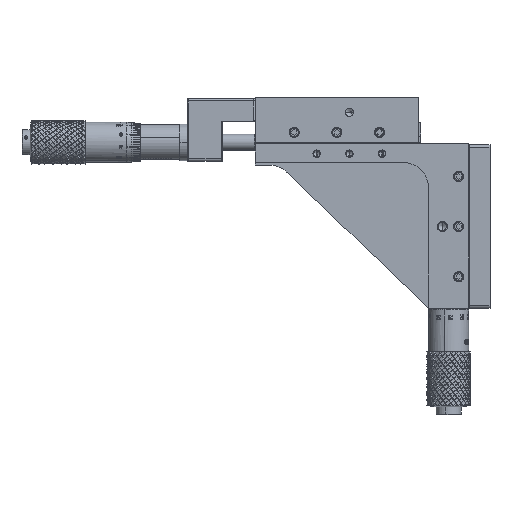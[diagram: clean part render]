
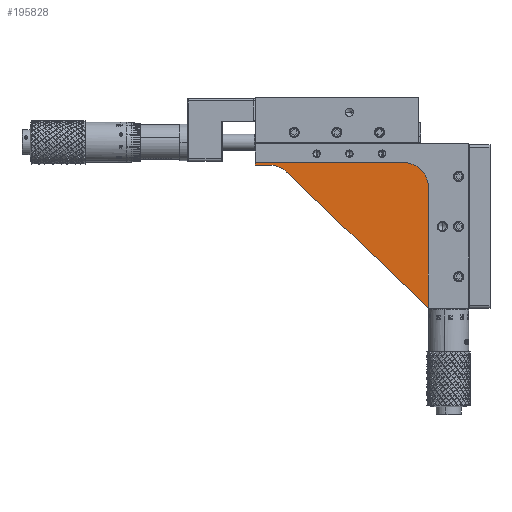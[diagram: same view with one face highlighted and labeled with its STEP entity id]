
A CAD part, left-side view. The second image highlights one B-rep face of the part: STEP entity #195828.
In plain terms, the highlighted planar face has unit normal (-1, 0, 0) as drawn and (0, 0, -1) by its records, which use the part's own axes.
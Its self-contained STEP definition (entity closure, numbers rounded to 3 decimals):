
#1626 = CARTESIAN_POINT ( 'NONE',  ( 26., 26., -9.5 ) ) ;
#2113 = VECTOR ( 'NONE', #47264, 1000. ) ;
#4133 = VERTEX_POINT ( 'NONE', #133170 ) ;
#4943 = DIRECTION ( 'NONE',  ( -1., 0., 0. ) ) ;
#7646 = ORIENTED_EDGE ( 'NONE', *, *, #130283, .F. ) ;
#8286 = CARTESIAN_POINT ( 'NONE',  ( 16., 85., -9.5 ) ) ;
#17735 = VERTEX_POINT ( 'NONE', #8286 ) ;
#25556 = CIRCLE ( 'NONE', #163276, 10. ) ;
#29750 = CARTESIAN_POINT ( 'NONE',  ( 16., 85., -9.5 ) ) ;
#33497 = LINE ( 'NONE', #108657, #63861 ) ;
#36321 = AXIS2_PLACEMENT_3D ( 'NONE', #1626, #76852, #151941 ) ;
#42931 = ORIENTED_EDGE ( 'NONE', *, *, #48311, .F. ) ;
#47264 = DIRECTION ( 'NONE',  ( 0., -1., 0. ) ) ;
#47851 = EDGE_CURVE ( 'NONE', #164682, #4133, #93376, .T. ) ;
#48311 = EDGE_CURVE ( 'NONE', #17735, #85294, #232930, .T. ) ;
#58499 = DIRECTION ( 'NONE',  ( 1., 0., 0. ) ) ;
#63861 = VECTOR ( 'NONE', #183828, 1000. ) ;
#64180 = CARTESIAN_POINT ( 'NONE',  ( 16., 85., -9.5 ) ) ;
#71887 = ORIENTED_EDGE ( 'NONE', *, *, #194553, .T. ) ;
#76852 = DIRECTION ( 'NONE',  ( 0., 0., -1. ) ) ;
#82373 = CARTESIAN_POINT ( 'NONE',  ( 26., 26., -9.5 ) ) ;
#85294 = VERTEX_POINT ( 'NONE', #214984 ) ;
#90311 = VERTEX_POINT ( 'NONE', #105644 ) ;
#90484 = VERTEX_POINT ( 'NONE', #147440 ) ;
#93376 = CIRCLE ( 'NONE', #231095, 10. ) ;
#93972 = CARTESIAN_POINT ( 'NONE',  ( 17., 79.422, -9.5 ) ) ;
#94399 = ORIENTED_EDGE ( 'NONE', *, *, #142867, .F. ) ;
#95300 = FACE_OUTER_BOUND ( 'NONE', #101784, .T. ) ;
#98595 = CARTESIAN_POINT ( 'NONE',  ( 27., 79.422, -9.5 ) ) ;
#100533 = EDGE_CURVE ( 'NONE', #90484, #164682, #140879, .T. ) ;
#101784 = EDGE_LOOP ( 'NONE', ( #71887, #94399, #7646, #42931, #236880, #169753, #234462 ) ) ;
#104919 = DIRECTION ( 'NONE',  ( -1., 0., 0. ) ) ;
#105644 = CARTESIAN_POINT ( 'NONE',  ( 26., 16., -9.5 ) ) ;
#108657 = CARTESIAN_POINT ( 'NONE',  ( 19.785, 72.498, -9.5 ) ) ;
#125380 = CARTESIAN_POINT ( 'NONE',  ( 74., 16., -9.5 ) ) ;
#130283 = EDGE_CURVE ( 'NONE', #85294, #90311, #25556, .T. ) ;
#133170 = CARTESIAN_POINT ( 'NONE',  ( 19.785, 72.498, -9.5 ) ) ;
#139254 = DIRECTION ( 'NONE',  ( 0., -1., 0. ) ) ;
#140879 = LINE ( 'NONE', #216048, #2113 ) ;
#142867 = EDGE_CURVE ( 'NONE', #90311, #191646, #152105, .T. ) ;
#147440 = CARTESIAN_POINT ( 'NONE',  ( 17., 85., -9.5 ) ) ;
#150935 = VECTOR ( 'NONE', #104919, 1000. ) ;
#151941 = DIRECTION ( 'NONE',  ( 1., 0., 0. ) ) ;
#152105 = LINE ( 'NONE', #227288, #243361 ) ;
#157465 = DIRECTION ( 'NONE',  ( 0., 0., 1. ) ) ;
#160838 = EDGE_CURVE ( 'NONE', #90484, #17735, #198553, .T. ) ;
#163276 = AXIS2_PLACEMENT_3D ( 'NONE', #82373, #157465, #232661 ) ;
#164682 = VERTEX_POINT ( 'NONE', #93972 ) ;
#169753 = ORIENTED_EDGE ( 'NONE', *, *, #100533, .T. ) ;
#170433 = PLANE ( 'NONE',  #36321 ) ;
#173755 = DIRECTION ( 'NONE',  ( 0., 0., 1. ) ) ;
#176050 = VECTOR ( 'NONE', #139254, 1000. ) ;
#183828 = DIRECTION ( 'NONE',  ( 0.692, -0.722, 0. ) ) ;
#191646 = VERTEX_POINT ( 'NONE', #125380 ) ;
#194553 = EDGE_CURVE ( 'NONE', #4133, #191646, #33497, .T. ) ;
#195828 = ADVANCED_FACE ( 'NONE', ( #95300 ), #170433, .T. ) ;
#198553 = LINE ( 'NONE', #29750, #150935 ) ;
#214984 = CARTESIAN_POINT ( 'NONE',  ( 16., 26., -9.5 ) ) ;
#216048 = CARTESIAN_POINT ( 'NONE',  ( 17., 85., -9.5 ) ) ;
#227288 = CARTESIAN_POINT ( 'NONE',  ( 26., 16., -9.5 ) ) ;
#231095 = AXIS2_PLACEMENT_3D ( 'NONE', #98595, #173755, #4943 ) ;
#232661 = DIRECTION ( 'NONE',  ( 1., 0., 0. ) ) ;
#232930 = LINE ( 'NONE', #64180, #176050 ) ;
#234462 = ORIENTED_EDGE ( 'NONE', *, *, #47851, .T. ) ;
#236880 = ORIENTED_EDGE ( 'NONE', *, *, #160838, .F. ) ;
#243361 = VECTOR ( 'NONE', #58499, 1000. ) ;
